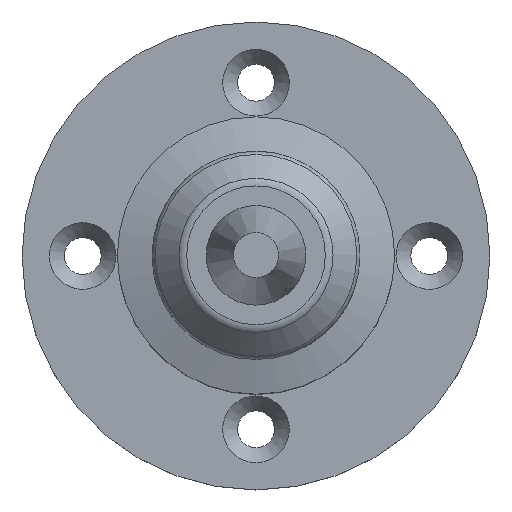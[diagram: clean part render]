
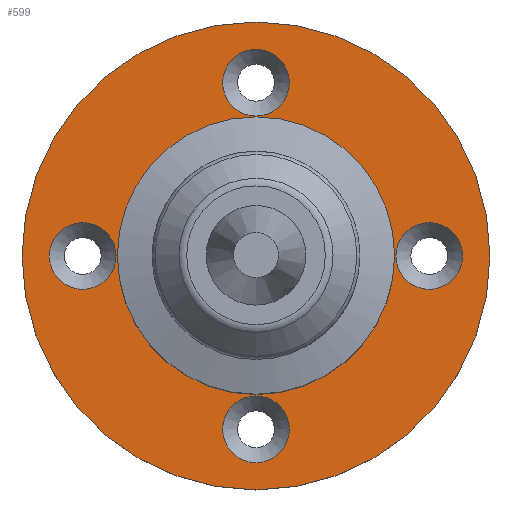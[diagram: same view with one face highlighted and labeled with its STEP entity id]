
A CAD part, top view. The second image highlights one B-rep face of the part: STEP entity #599.
In plain terms, the highlighted planar face has unit normal (0, 0, 1).
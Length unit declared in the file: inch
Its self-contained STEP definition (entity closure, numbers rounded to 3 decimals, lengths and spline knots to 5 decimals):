
#528=CARTESIAN_POINT('',(-28.92285,96.3097,-62.28557));
#529=DIRECTION('',(0.0,0.0,1.0));
#530=DIRECTION('',(-1.0,0.0,0.0));
#531=AXIS2_PLACEMENT_3D('',#528,#529,#530);
#532=PLANE('',#531);
#533=CARTESIAN_POINT('',(-27.57285,96.3097,-62.28557));
#534=VERTEX_POINT('',#533);
#535=CARTESIAN_POINT('',(-28.92285,96.3097,-62.28557));
#536=DIRECTION('',(0.0,0.0,1.0));
#537=DIRECTION('',(1.0,0.0,0.0));
#538=AXIS2_PLACEMENT_3D('',#535,#536,#537);
#539=CIRCLE('',#538,1.35);
#540=EDGE_CURVE('',#534,#534,#539,.T.);
#541=ORIENTED_EDGE('',*,*,#540,.T.);
#542=EDGE_LOOP('',(#541));
#543=FACE_OUTER_BOUND('',#542,.T.);
#544=CARTESIAN_POINT('',(-29.92285,96.5022,-62.28557));
#545=VERTEX_POINT('',#544);
#546=CARTESIAN_POINT('',(-29.92285,96.3097,-62.28557));
#547=DIRECTION('',(0.0,0.0,-1.0));
#548=DIRECTION('',(0.0,1.0,0.0));
#549=AXIS2_PLACEMENT_3D('',#546,#547,#548);
#550=CIRCLE('',#549,0.1925);
#551=EDGE_CURVE('',#545,#545,#550,.T.);
#552=ORIENTED_EDGE('',*,*,#551,.T.);
#553=EDGE_LOOP('',(#552));
#554=FACE_BOUND('',#553,.T.);
#555=CARTESIAN_POINT('',(-27.92285,96.1172,-62.28557));
#556=VERTEX_POINT('',#555);
#557=CARTESIAN_POINT('',(-27.92285,96.3097,-62.28557));
#558=DIRECTION('',(0.0,0.0,-1.0));
#559=DIRECTION('',(0.0,-1.0,0.0));
#560=AXIS2_PLACEMENT_3D('',#557,#558,#559);
#561=CIRCLE('',#560,0.1925);
#562=EDGE_CURVE('',#556,#556,#561,.T.);
#563=ORIENTED_EDGE('',*,*,#562,.T.);
#564=EDGE_LOOP('',(#563));
#565=FACE_BOUND('',#564,.T.);
#566=CARTESIAN_POINT('',(-29.11535,95.3097,-62.28557));
#567=VERTEX_POINT('',#566);
#568=CARTESIAN_POINT('',(-28.92285,95.3097,-62.28557));
#569=DIRECTION('',(0.0,0.0,-1.0));
#570=DIRECTION('',(-1.0,0.0,0.0));
#571=AXIS2_PLACEMENT_3D('',#568,#569,#570);
#572=CIRCLE('',#571,0.1925);
#573=EDGE_CURVE('',#567,#567,#572,.T.);
#574=ORIENTED_EDGE('',*,*,#573,.T.);
#575=EDGE_LOOP('',(#574));
#576=FACE_BOUND('',#575,.T.);
#577=CARTESIAN_POINT('',(-28.73035,97.3097,-62.28557));
#578=VERTEX_POINT('',#577);
#579=CARTESIAN_POINT('',(-28.92285,97.3097,-62.28557));
#580=DIRECTION('',(0.0,0.0,-1.0));
#581=DIRECTION('',(1.0,0.0,0.0));
#582=AXIS2_PLACEMENT_3D('',#579,#580,#581);
#583=CIRCLE('',#582,0.1925);
#584=EDGE_CURVE('',#578,#578,#583,.T.);
#585=ORIENTED_EDGE('',*,*,#584,.T.);
#586=EDGE_LOOP('',(#585));
#587=FACE_BOUND('',#586,.T.);
#588=CARTESIAN_POINT('',(-28.92285,96.7297,-62.28557));
#589=VERTEX_POINT('',#588);
#590=CARTESIAN_POINT('',(-28.92285,96.3097,-62.28557));
#591=DIRECTION('',(0.0,0.0,-1.0));
#592=DIRECTION('',(0.0,1.0,0.0));
#593=AXIS2_PLACEMENT_3D('',#590,#591,#592);
#594=CIRCLE('',#593,0.42);
#595=EDGE_CURVE('',#589,#589,#594,.T.);
#596=ORIENTED_EDGE('',*,*,#595,.T.);
#597=EDGE_LOOP('',(#596));
#598=FACE_BOUND('',#597,.T.);
#599=ADVANCED_FACE('',(#543,#554,#565,#576,#587,#598),#532,.T.);
